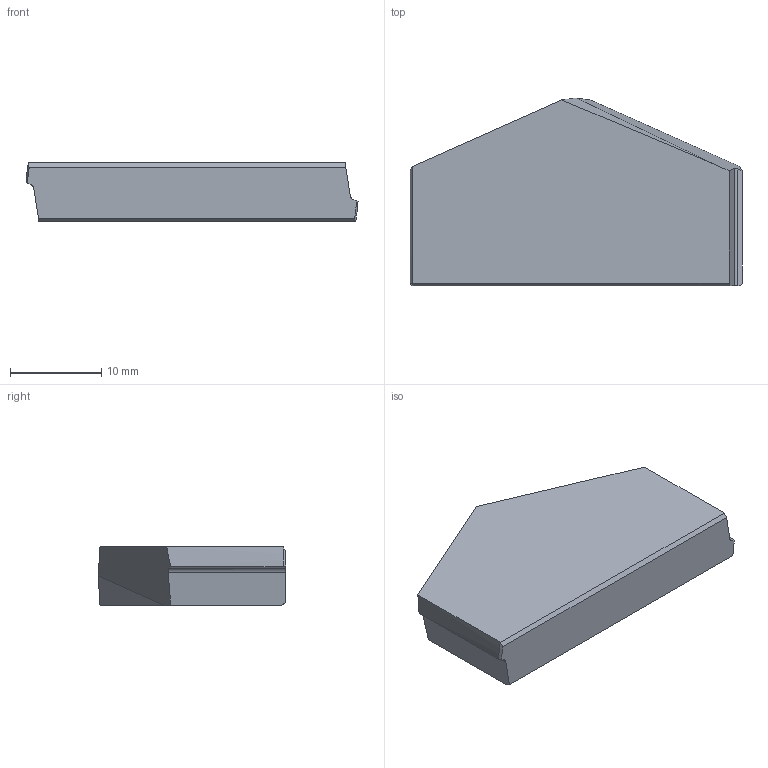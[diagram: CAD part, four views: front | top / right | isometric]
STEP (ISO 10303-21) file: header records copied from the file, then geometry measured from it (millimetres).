
FILE_DESCRIPTION (( 'STEP AP214' ), '1' );
FILE_NAME ('02-1060.STEP', '2022-06-24T05:43:25', ( '' ), ( '' ), 'SwSTEP 2.0', 'SolidWorks 2018', '' );
FILE_SCHEMA (( 'AUTOMOTIVE_DESIGN' ));
Length unit declared in the file: millimetre
Products named in the file (1): 02-1060
Bounding box: 36.45 x 20.6 x 6.4 mm (x, y, z)
Volume: 3727.6 mm3; surface area: 1791.3 mm2
Topology: 1 solids, 1 shells, 19 faces, 50 edges, 33 vertices
Faces by surface type: plane 13, cylinder 4, cone 2
Entity records: 620 total; most frequent: CARTESIAN_POINT 133, ORIENTED_EDGE 100, DIRECTION 86, EDGE_CURVE 50, LINE 34, VECTOR 34, VERTEX_POINT 33, AXIS2_PLACEMENT_3D 26
